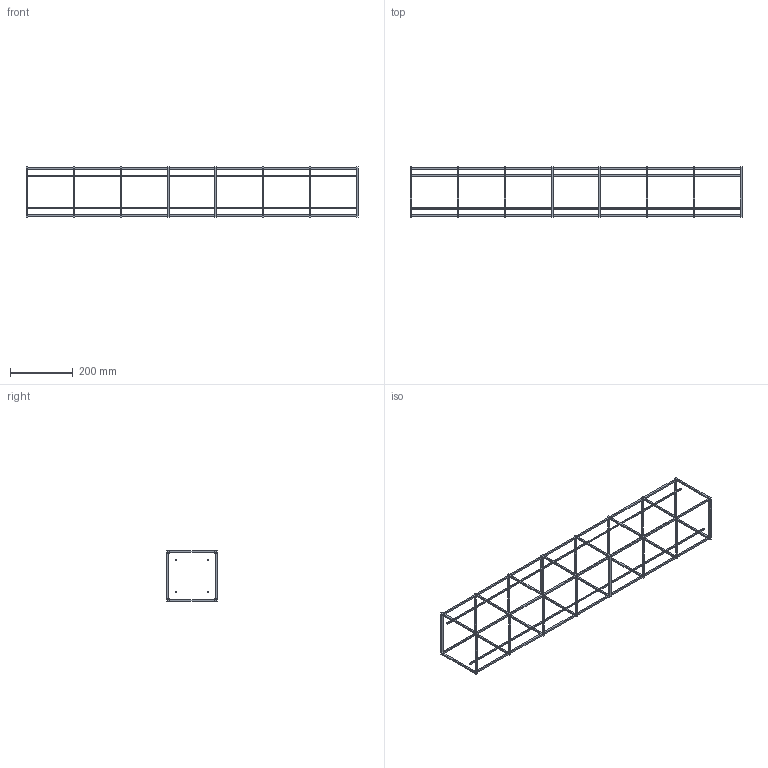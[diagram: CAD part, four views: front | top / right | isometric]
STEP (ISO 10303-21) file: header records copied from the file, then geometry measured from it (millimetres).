
FILE_DESCRIPTION(('Open CASCADE Model'),'2;1');
FILE_NAME('Open CASCADE Shape Model','2026-08-13T21:24:42',('Author'),( 'Open CASCADE'),'Open CASCADE STEP processor 7.7','Open CASCADE 7.7' ,'Unknown');
FILE_SCHEMA(('AUTOMOTIVE_DESIGN { 1 0 10303 214 1 1 1 1 }'));
Length unit declared in the file: millimetre
Products named in the file (41): Open CASCADE STEP translator 7.7 4; Open CASCADE STEP translator 7.7 4.1; Open CASCADE STEP translator 7.7 4.2; Open CASCADE STEP translator 7.7 4.3; Open CASCADE STEP translator 7.7 4.4; Open CASCADE STEP translator 7.7 4.5; Open CASCADE STEP translator 7.7 4.6; Open CASCADE STEP translator 7.7 4.7; Open CASCADE STEP translator 7.7 4.8; Open CASCADE STEP translator 7.7 4.9; Open CASCADE STEP translator 7.7 4.10; Open CASCADE STEP translator 7.7 4.11; Open CASCADE STEP translator 7.7 4.12; Open CASCADE STEP translator 7.7 4.13; Open CASCADE STEP translator 7.7 4.14; Open CASCADE STEP translator 7.7 4.15; Open CASCADE STEP translator 7.7 4.16; Open CASCADE STEP translator 7.7 4.17; Open CASCADE STEP translator 7.7 4.18; Open CASCADE STEP translator 7.7 4.19; Open CASCADE STEP translator 7.7 4.20; Open CASCADE STEP translator 7.7 4.21; Open CASCADE STEP translator 7.7 4.22; Open CASCADE STEP translator 7.7 4.23; Open CASCADE STEP translator 7.7 4.24; Open CASCADE STEP translator 7.7 4.25; Open CASCADE STEP translator 7.7 4.26; Open CASCADE STEP translator 7.7 4.27; Open CASCADE STEP translator 7.7 4.28; Open CASCADE STEP translator 7.7 4.29; Open CASCADE STEP translator 7.7 4.30; Open CASCADE STEP translator 7.7 4.31; Open CASCADE STEP translator 7.7 4.32; Open CASCADE STEP translator 7.7 4.33; Open CASCADE STEP translator 7.7 4.34; Open CASCADE STEP translator 7.7 4.35; Open CASCADE STEP translator 7.7 4.36; Open CASCADE STEP translator 7.7 4.37; Open CASCADE STEP translator 7.7 4.38; Open CASCADE STEP translator 7.7 4.39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
Assembly tree (40 placements, depth 2):
  Open CASCADE STEP translator 7.7 4
    Open CASCADE STEP translator 7.7 4.1
    Open CASCADE STEP translator 7.7 4.2
    Open CASCADE STEP translator 7.7 4.3
    Open CASCADE STEP translator 7.7 4.4
    Open CASCADE STEP translator 7.7 4.5
    Open CASCADE STEP translator 7.7 4.6
    Open CASCADE STEP translator 7.7 4.7
    Open CASCADE STEP translator 7.7 4.8
    Open CASCADE STEP translator 7.7 4.9
    Open CASCADE STEP translator 7.7 4.10
    Open CASCADE STEP translator 7.7 4.11
    Open CASCADE STEP translator 7.7 4.12
    Open CASCADE STEP translator 7.7 4.13
    Open CASCADE STEP translator 7.7 4.14
    Open CASCADE STEP translator 7.7 4.15
    Open CASCADE STEP translator 7.7 4.16
    Open CASCADE STEP translator 7.7 4.17
    Open CASCADE STEP translator 7.7 4.18
    Open CASCADE STEP translator 7.7 4.19
    Open CASCADE STEP translator 7.7 4.20
    Open CASCADE STEP translator 7.7 4.21
    Open CASCADE STEP translator 7.7 4.22
    Open CASCADE STEP translator 7.7 4.23
    Open CASCADE STEP translator 7.7 4.24
    Open CASCADE STEP translator 7.7 4.25
    Open CASCADE STEP translator 7.7 4.26
    Open CASCADE STEP translator 7.7 4.27
    Open CASCADE STEP translator 7.7 4.28
    Open CASCADE STEP translator 7.7 4.29
    Open CASCADE STEP translator 7.7 4.30
    Open CASCADE STEP translator 7.7 4.31
    Open CASCADE STEP translator 7.7 4.32
    Open CASCADE STEP translator 7.7 4.33
    Open CASCADE STEP translator 7.7 4.34
    Open CASCADE STEP translator 7.7 4.35
    Open CASCADE STEP translator 7.7 4.36
    Open CASCADE STEP translator 7.7 4.37
    Open CASCADE STEP translator 7.7 4.38
    Open CASCADE STEP translator 7.7 4.39
    Open CASCADE STEP translator 7.7 4.40
Bounding box: 1055 x 160 x 160 mm (x, y, z)
Volume: 296200 mm3; surface area: 252328 mm2
Topology: 40 solids, 40 shells, 240 faces, 480 edges, 320 vertices
Faces by surface type: plane 240
Entity records: 12976 total; most frequent: CARTESIAN_POINT 2041, DIRECTION 2002, LINE 1440, VECTOR 1440, ORIENTED_EDGE 960, PCURVE 960, DEFINITIONAL_REPRESENTATION 960, EDGE_CURVE 480
